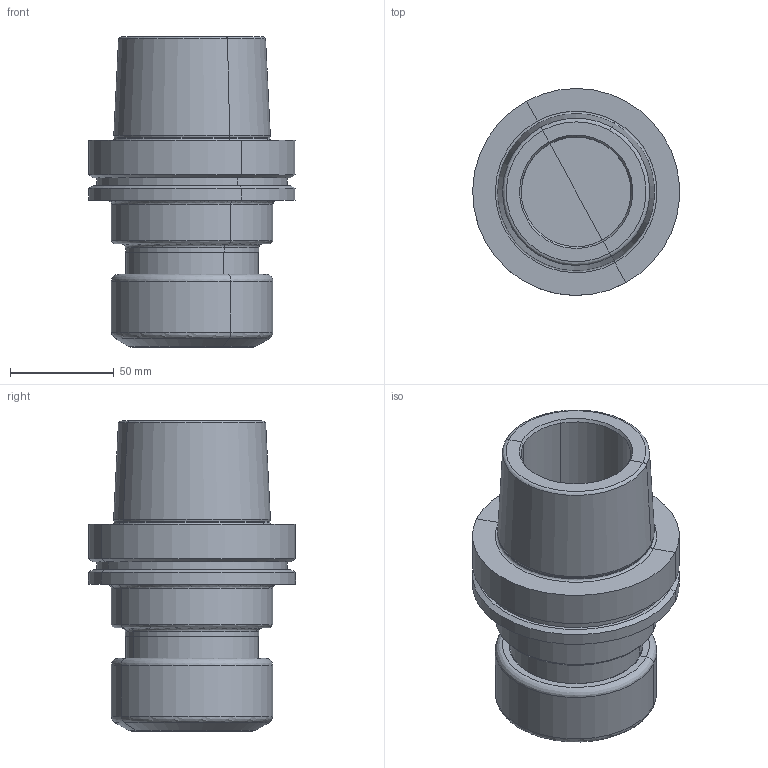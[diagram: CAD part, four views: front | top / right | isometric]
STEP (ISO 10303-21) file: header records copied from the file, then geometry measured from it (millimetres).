
FILE_DESCRIPTION(('CATIA V5 STEP','CAx-IF Rec.Pracs.--- Model Styling and Organization---1.2---2011-12-15'),'2;1');
FILE_NAME('\\nas01\drv1\utils\eitdev\rte\eit\transmagicconvert\db\out\635924293045818112\4503591 L.stp','2016-03-01T09:41:57+00:00',('none'),('none'),'CATIA Version 5 Release 21 SP 5 (IN-10)','CATIA V5 STEP AP214','none');
FILE_SCHEMA(('AUTOMOTIVE_DESIGN { 1 0 10303 214 1 1 1 1 }'));
Length unit declared in the file: millimetre
Products named in the file (1): HSK A 100 ER50X100
Bounding box: 99.82 x 99.99 x 150 mm (x, y, z)
Volume: 496642 mm3; surface area: 75206.5 mm2
Topology: 1 solids, 1 shells, 89 faces, 178 edges, 91 vertices
Faces by surface type: revolution 67, plane 22
Entity records: 2731 total; most frequent: CARTESIAN_POINT 1087, ORIENTED_EDGE 356, DIRECTION 206, EDGE_CURVE 178, B_SPLINE_CURVE_WITH_KNOTS 134, AXIS2_PLACEMENT_3D 106, CIRCLE 91, VERTEX_POINT 91
